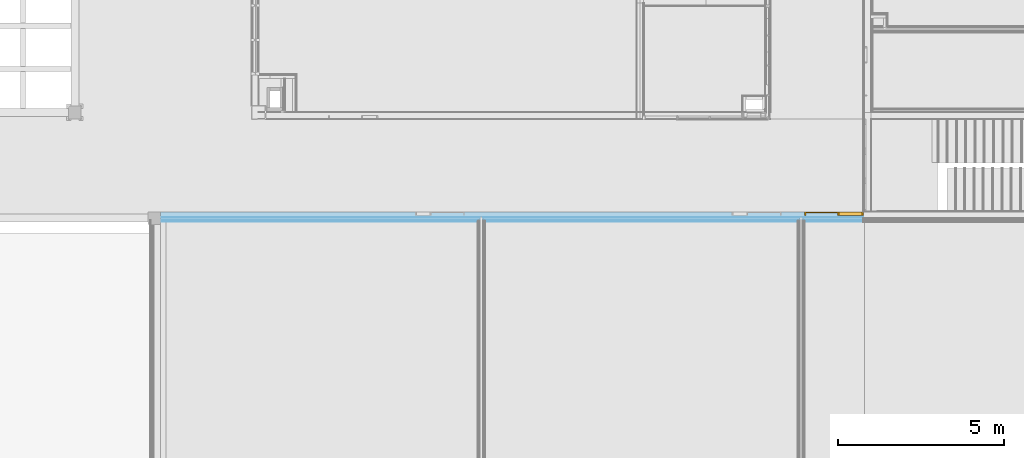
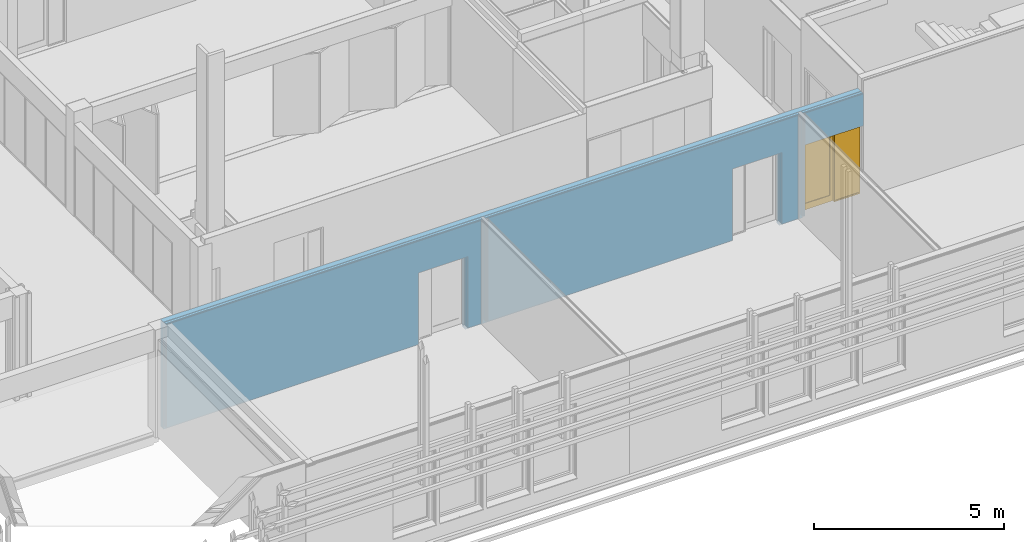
# One storey, part 63 of 139: 1 door, 3 openings, 1 element without a shape of its own, plus 7 elements that do not belong to this part.
"""IFC2X3 building model written with IfcOpenShell, lengths in millimetres."""

from ifc_helpers import new_model, entity, si_unit, converted_unit, derived_unit, money_unit, direction, frame, origin_with_axes, place, context, subcontext, project, spatial, open_shell, faceted_brep, surface_model, material, type_object, element, fill, aggregate, save


model = new_model("IFC2X3")

# Units and contexts
model_context = context("Model", 3, precision=0.01, world=origin_with_axes(), true_north=direction((0.0, 1.0)))
body_context = subcontext(model_context, "Body", "Model", "MODEL_VIEW")
ifc_project = project(units=[si_unit("LENGTHUNIT", "METRE", prefix="MILLI"), si_unit("AREAUNIT", "SQUARE_METRE"), si_unit("VOLUMEUNIT", "CUBIC_METRE"), converted_unit("PLANEANGLEUNIT", "DEGREE", entity("IfcPlaneAngleMeasure", 0.0174532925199), si_unit("PLANEANGLEUNIT", "RADIAN"), dimensions=[0, 0, 0, 0, 0, 0, 0]), money_unit("EUR"), converted_unit("TIMEUNIT", "Year", entity("IfcTimeMeasure", 31556926.0), si_unit("TIMEUNIT", "SECOND"), dimensions=[0, 0, 1, 0, 0, 0, 0]), si_unit("MASSUNIT", "GRAM", prefix="KILO"), si_unit("THERMODYNAMICTEMPERATUREUNIT", "DEGREE_CELSIUS"), si_unit("LUMINOUSINTENSITYUNIT", "LUMEN"), si_unit("ENERGYUNIT", "JOULE", prefix="MEGA"), derived_unit("THERMALCONDUCTANCEUNIT", [(si_unit("POWERUNIT", "WATT"), 1), (si_unit("LENGTHUNIT", "METRE"), -1), (si_unit("THERMODYNAMICTEMPERATUREUNIT", "KELVIN"), -1)]), derived_unit("SPECIFICHEATCAPACITYUNIT", [(si_unit("ENERGYUNIT", "JOULE"), 1), (si_unit("MASSUNIT", "GRAM", prefix="KILO"), -1), (si_unit("THERMODYNAMICTEMPERATUREUNIT", "KELVIN"), -1)]), derived_unit("MASSDENSITYUNIT", [(si_unit("MASSUNIT", "GRAM", prefix="KILO"), 1), (si_unit("VOLUMEUNIT", "CUBIC_METRE"), -1)])], contexts=[model_context])

# Site, building, storey
site_placement = place(None, origin_with_axes())
site = spatial("IfcSite", under=ifc_project, at=site_placement, Name="Kolde pst 67a", CompositionType="ELEMENT")
building_placement = place(site_placement, origin_with_axes())
building = spatial("IfcBuilding", under=site, at=building_placement, Name="Riigigümnaasium", CompositionType="ELEMENT")
storey_placement = place(building_placement, frame((0.0, 0.0, 4600.0), z_axis=(0.0, 0.0, 1.0), x_axis=(1.0, 0.0, 0.0)))
storey = spatial("IfcBuildingStorey", under=building, at=storey_placement, Name="2. korrus", CompositionType="ELEMENT", Elevation=4600.0)

# Door
door_style = type_object("IfcDoorStyle", Name="Door with Sidelight on Side 2 25", ConstructionType="NOTDEFINED", OperationType="SINGLE_SWING_LEFT", ParameterTakesPrecedence=False, Sizeable=False)
wall_placement = place(storey_placement, frame((55369.9826662, 7900.0, -130.0), z_axis=(0.0, 0.0, 1.0), x_axis=(1.0, 0.0, 0.0)))
opening_2_placement = place(wall_placement, frame((20330.020805, 0.0, 130.0), z_axis=(0.0, 0.0, 1.0), x_axis=(1.0, 0.0, 0.0)))
door_placement = place(opening_2_placement, frame((-890.0, 0.0, 0.0), z_axis=(0.0, 0.0, 1.0), x_axis=(1.0, 0.0, 0.0)))
door = element("IfcDoor", 1, at=door_placement, inside=storey, type_object=door_style, Name="Siseuks", ObjectType="DOOR", OverallHeight=2300.0, OverallWidth=1780.0, context=body_context, shape_type="SurfaceModel", body=[
    faceted_brep([(1780.0, 0.0, 0.0), (1780.0, -115.0, 0.0), (1740.0, -115.0, 0.0), (1740.0, 0.0, 0.0), (1780.0, 0.0, 2260.0), (1780.0, -115.0, 2260.0), (1740.0, -115.0, 2260.0), (1740.0, -115.0, 40.0), (1740.0, 0.0, 40.0), (1740.0, 0.0, 2260.0)], [[[0, 1, 2, 3]], [[4, 5, 1, 0]], [[1, 5, 6, 7, 2]], [[3, 2, 7, 8]], [[0, 3, 8, 9, 4]], [[9, 6, 5, 4]], [[8, 7, 6, 9]]]),
    faceted_brep([(1000.00030613, -40.0, 0.0), (1000.00030613, -115.0, 0.0), (1000.00030613, -115.0, 2260.0), (1000.00030613, -40.0, 2260.0), (1012.00030613, -40.0, 0.0), (1012.00030613, 0.0, 0.0), (1040.00030613, 0.0, 0.0), (1040.00030613, -115.0, 0.0), (1040.00030613, -115.0, 40.0), (1040.00030613, -115.0, 2260.0), (1012.00030613, -40.0, 2260.0), (1040.00030613, 0.0, 2260.0), (1012.00030613, 0.0, 2260.0), (1040.00030613, 0.0, 40.0)], [[[0, 1, 2, 3]], [[4, 5, 6, 7, 1, 0]], [[7, 8, 9, 2, 1]], [[10, 3, 2, 9, 11, 12]], [[10, 4, 0, 3]], [[12, 5, 4, 10]], [[12, 11, 13, 6, 5]], [[6, 13, 8, 7]], [[13, 11, 9, 8]]]),
    faceted_brep([(1740.0, 0.0, 40.0), (1740.0, -115.0, 40.0), (1740.0, -115.0, 0.0), (1740.0, 0.0, 0.0), (1040.00030613, 0.0, 40.0), (1040.00030613, -115.0, 40.0), (1040.00030613, -115.0, 0.0), (1040.00030613, 0.0, 0.0)], [[[0, 1, 2, 3]], [[4, 5, 1, 0]], [[1, 5, 6, 2]], [[3, 2, 6, 7]], [[0, 3, 7, 4]], [[7, 6, 5, 4]]]),
    faceted_brep([(28.0, -40.0, 2260.0), (28.0, 0.0, 2260.0), (0.0, 0.0, 2260.0), (0.0, -115.0, 2260.0), (40.0, -115.0, 2260.0), (40.0, -40.0, 2260.0), (28.0, -40.0, 0.0), (28.0, 0.0, 0.0), (0.0, 0.0, 0.0), (0.0, -115.0, 0.0), (40.0, -115.0, 0.0), (40.0, -40.0, 0.0)], [[[0, 1, 2, 3, 4, 5]], [[0, 6, 7, 1]], [[7, 8, 2, 1]], [[2, 8, 9, 3]], [[3, 9, 10, 4]], [[5, 4, 10, 11]], [[5, 11, 6, 0]], [[6, 11, 10, 9, 8, 7]]]),
    faceted_brep([(1012.00030613, 0.0, 2272.0), (28.0, 0.0, 2272.0), (28.0, 0.0, 2260.0), (0.0, 0.0, 2260.0), (0.0, 0.0, 2300.0), (1780.0, 0.0, 2300.0), (1780.0, 0.0, 2260.0), (1740.0, 0.0, 2260.0), (1040.00030613, 0.0, 2260.0), (1012.00030613, 0.0, 2260.0), (1012.00030613, -40.0, 2272.0), (28.0, -40.0, 2272.0), (28.0, -40.0, 2260.0), (40.0, -40.0, 2260.0), (40.0, -115.0, 2260.0), (0.0, -115.0, 2260.0), (0.0, -115.0, 2300.0), (1780.0, -115.0, 2300.0), (1780.0, -115.0, 2260.0), (1740.0, -115.0, 2260.0), (1040.00030613, -115.0, 2260.0), (1012.00030613, -40.0, 2260.0), (1000.00030613, -115.0, 2260.0)], [[[0, 1, 2, 3, 4, 5, 6, 7, 8, 9]], [[0, 10, 11, 1]], [[1, 11, 12, 2]], [[12, 13, 14, 15, 3, 2]], [[4, 3, 15, 16]], [[5, 4, 16, 17]], [[6, 5, 17, 18]], [[7, 6, 18, 19]], [[8, 7, 19, 20]], [[21, 9, 8, 20, 22, 14, 13]], [[9, 21, 10, 0]], [[12, 11, 10, 21, 13]], [[14, 22, 20, 19, 18, 17, 16, 15]]]),
    faceted_brep([(28.0, 0.0, 200.0), (128.0, 0.0, 200.0), (128.0, -40.0, 200.0), (28.0, -40.0, 200.0), (28.0, 0.0, 2172.0), (128.0, 0.0, 2172.0), (128.0, -40.0, 2172.0), (28.0, -40.0, 2172.0)], [[[0, 1, 2, 3]], [[0, 4, 5, 1]], [[1, 5, 6, 2]], [[3, 2, 6, 7]], [[4, 0, 3, 7]], [[5, 4, 7, 6]]]),
    faceted_brep([(1012.00030613, 0.0, 200.0), (1012.00030613, 0.0, 2172.0), (1012.00030613, -40.0, 2172.0), (1012.00030613, -40.0, 200.0), (912.000306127, 0.0, 200.0), (912.000306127, 0.0, 2172.0), (912.000306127, -40.0, 2172.0), (912.000306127, -40.0, 200.0)], [[[0, 1, 2, 3]], [[0, 4, 5, 1]], [[1, 5, 6, 2]], [[3, 2, 6, 7]], [[4, 0, 3, 7]], [[5, 4, 7, 6]]]),
    faceted_brep([(28.0, 0.0, 0.0), (1012.00030613, 0.0, 0.0), (1012.00030613, -40.0, 0.0), (28.0, -40.0, 0.0), (28.0, 0.0, 200.0), (128.0, 0.0, 200.0), (912.000306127, 0.0, 200.0), (1012.00030613, 0.0, 200.0), (1012.00030613, -40.0, 200.0), (912.000306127, -40.0, 200.0), (128.0, -40.0, 200.0), (28.0, -40.0, 200.0)], [[[0, 1, 2, 3]], [[0, 4, 5, 6, 7, 1]], [[1, 7, 8, 2]], [[3, 2, 8, 9, 10, 11]], [[4, 0, 3, 11]], [[5, 4, 11, 10]], [[6, 5, 10, 9]], [[7, 6, 9, 8]]]),
    faceted_brep([(28.0, 0.0, 2272.0), (28.0, 0.0, 2172.0), (28.0, -40.0, 2172.0), (28.0, -40.0, 2272.0), (1012.00030613, 0.0, 2272.0), (1012.00030613, 0.0, 2172.0), (912.000306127, 0.0, 2172.0), (128.0, 0.0, 2172.0), (128.0, -40.0, 2172.0), (912.000306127, -40.0, 2172.0), (1012.00030613, -40.0, 2172.0), (1012.00030613, -40.0, 2272.0)], [[[0, 1, 2, 3]], [[0, 4, 5, 6, 7, 1]], [[1, 7, 8, 2]], [[3, 2, 8, 9, 10, 11]], [[4, 0, 3, 11]], [[5, 4, 11, 10]], [[6, 5, 10, 9]], [[7, 6, 9, 8]]]),
    surface_model("IfcShellBasedSurfaceModel", [(128.0, -14.0, 200.0), (128.0, -14.0, 2172.0), (912.000306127, -14.0, 2172.0), (912.000306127, -14.0, 200.0)], [open_shell([[[0, 1, 2, 3]]])]),
    surface_model("IfcShellBasedSurfaceModel", [(128.0, -26.0, 200.0), (912.000306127, -26.0, 200.0), (912.000306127, -26.0, 2172.0), (128.0, -26.0, 2172.0)], [open_shell([[[0, 1, 2, 3]]])]),
    surface_model("IfcShellBasedSurfaceModel", [(1740.0, -91.0, 40.0), (1040.00030613, -91.0, 40.0), (1040.00030613, -91.0, 2260.0), (1740.0, -91.0, 2260.0)], [open_shell([[[0, 1, 2, 3]]])]),
    surface_model("IfcShellBasedSurfaceModel", [(1740.0, -103.0, 40.0), (1740.0, -103.0, 2260.0), (1040.00030613, -103.0, 2260.0), (1040.00030613, -103.0, 40.0)], [open_shell([[[0, 1, 2, 3]]])]),
])

# Wall, openings
wall_type = type_object("IfcWallType", Name="SS-CLT-16/1_vill75+krohv 52 dB 300", PredefinedType="NOTDEFINED")
wall = element("IfcWall", 2, at=wall_placement, inside=storey, type_object=wall_type, Name="Sisesein")
opening_1_placement = place(wall_placement, frame((8430.01666176, 0.0, 130.0), z_axis=(0.0, 0.0, 1.0), x_axis=(1.0, 0.0, 0.0)))
element("IfcOpeningElement", 3, at=opening_1_placement, cuts=wall, Name="Siseuks", context=body_context, shape_type="Brep", body=[
    faceted_brep([(750.0, -300.0, 2300.0), (750.0, -300.0, 0.0), (750.0, 600.0, 0.0), (750.0, 600.0, 2300.0), (-750.0, -300.0, 2300.0), (-750.0, -300.0, 0.0), (-750.0, 600.0, 0.0), (-750.0, 600.0, 2300.0)], [[[0, 1, 2, 3]], [[0, 4, 5, 1]], [[1, 5, 6, 2]], [[3, 2, 6, 7]], [[4, 0, 3, 7]], [[5, 4, 7, 6]]]),
])
opening_2 = element("IfcOpeningElement", 4, at=opening_2_placement, cuts=wall, Name="Siseuks", context=body_context, shape_type="Brep", body=[
    faceted_brep([(-890.0, 600.0, 2300.0), (-890.0, 600.0, 0.0), (-890.0, -300.0, 0.0), (-890.0, -300.0, 2300.0), (890.0, 600.0, 2300.0), (890.0, 600.0, 0.0), (890.0, -300.0, 0.0), (890.0, -300.0, 2300.0)], [[[0, 1, 2, 3]], [[0, 4, 5, 1]], [[1, 5, 6, 2]], [[3, 2, 6, 7]], [[4, 0, 3, 7]], [[5, 4, 7, 6]]]),
])

fill(opening_2, door)

# Opening
opening_3_placement = place(wall_placement, frame((17990.0166618, 0.0, 130.0), z_axis=(0.0, 0.0, 1.0), x_axis=(1.0, 0.0, 0.0)))
element("IfcOpeningElement", 5, at=opening_3_placement, cuts=wall, Name="Siseuks", context=body_context, shape_type="Brep", body=[
    faceted_brep([(750.0, -300.0, 2300.0), (750.0, -300.0, 0.0), (750.0, 600.0, 0.0), (750.0, 600.0, 2300.0), (-750.0, -300.0, 2300.0), (-750.0, -300.0, 0.0), (-750.0, 600.0, 0.0), (-750.0, 600.0, 2300.0)], [[[0, 1, 2, 3]], [[0, 4, 5, 1]], [[1, 5, 6, 2]], [[3, 2, 6, 7]], [[4, 0, 3, 7]], [[5, 4, 7, 6]]]),
])

# Building element part
ifc_material_1 = material(Name="_KANDETARIND - CLT ristkihtliimpuit vastavalt EK osale, CLT paigaldusvuugid teibitakse ROTHOBLAAS teibiga")
building_element_part_1_placement = place(wall_placement, origin_with_axes())
building_element_part_1 = element("IfcBuildingElementPart", 6, at=building_element_part_1_placement, material=ifc_material_1, Name="_KANDETARIND - CLT ristkihtliimpuit vastavalt EK osale, CLT paigaldusvuugid teibitakse ROTHOBLAAS teibiga", context=body_context, shape_type="Brep", body=[
    faceted_brep([(17240.0166618, 0.0, 2430.0), (17240.0166618, 0.0, 130.0), (17240.0166618, 0.0, 0.0), (9180.01666176, 0.0, 0.0), (9180.01666176, 0.0, 130.0), (9180.01666176, 0.0, 2430.0), (7680.01666176, 0.0, 2430.0), (7680.01666176, 0.0, 130.0), (7680.01666176, 0.0, 0.0), (0.0, 0.0, 0.0), (0.0, 0.0, 3450.0), (21220.0193969, 0.0, 3450.0), (21220.020805, 0.0, 2430.0), (19440.020805, 0.0, 2430.0), (19440.020805, 0.0, 130.0), (19440.020805, 0.0, 0.0), (18740.0166618, 0.0, 0.0), (18740.0166618, 0.0, 130.0), (18740.0166618, 0.0, 2430.0), (17240.0166618, -160.0, 2430.0), (17240.0166618, -160.0, 130.0), (17240.0166618, -160.0, 0.0), (9180.01666176, -160.0, 0.0), (9180.01666176, -160.0, 130.0), (9180.01666176, -160.0, 2430.0), (7680.01666176, -160.0, 2430.0), (7680.01666176, -160.0, 130.0), (7680.01666176, -160.0, 0.0), (0.0, -160.0, 0.0), (-0.00089815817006, -160.0, 3450.0), (21220.0193969, -160.0, 3450.0), (21220.020805, -160.0, 2430.0), (19440.020805, -160.0, 2430.0), (19440.020805, -160.0, 130.0), (19440.020805, -160.0, 0.0), (18740.0166618, -160.0, 0.0), (18740.0166618, -160.0, 130.0), (18740.0166618, -160.0, 2430.0)], [[[0, 1, 2, 3, 4, 5, 6, 7, 8, 9, 10, 11, 12, 13, 14, 15, 16, 17, 18]], [[1, 0, 19, 20]], [[1, 20, 21, 2]], [[22, 3, 2, 21]], [[3, 22, 23, 4]], [[23, 24, 5, 4]], [[24, 25, 6, 5]], [[25, 26, 7, 6]], [[27, 8, 7, 26]], [[27, 28, 9, 8]], [[9, 28, 29, 10]], [[10, 29, 30, 11]], [[12, 11, 30, 31]], [[12, 31, 32, 13]], [[13, 32, 33, 14]], [[33, 34, 15, 14]], [[16, 15, 34, 35]], [[36, 17, 16, 35]], [[18, 17, 36, 37]], [[0, 18, 37, 19]], [[37, 36, 35, 34, 33, 32, 31, 30, 29, 28, 27, 26, 25, 24, 23, 22, 21, 20, 19]]]),
])

ifc_material_2 = material(Name="_ÕHKVAHE")
building_element_part_2_placement = place(wall_placement, origin_with_axes())
building_element_part_2 = element("IfcBuildingElementPart", 7, at=building_element_part_2_placement, material=ifc_material_2, Name="_ÕHKVAHE", context=body_context, shape_type="Brep", body=[
    faceted_brep([(21220.020805, -175.0, 2430.0), (21220.020805, -160.0, 2430.0), (21220.0193969, -160.0, 3450.0), (21220.0193969, -175.0, 3450.0), (19440.020805, -160.0, 2430.0), (19440.020805, -175.0, 2430.0), (19440.020805, -160.0, 130.0), (19440.020805, -160.0, 127.0), (19390.0166618, -160.0, 127.0), (19390.0166618, -160.0, 3450.0), (19390.0166618, -175.0, 3450.0), (19390.0166618, -175.0, 127.0), (19440.020805, -175.0, 127.0), (19440.020805, -175.0, 130.0)], [[[0, 1, 2, 3]], [[4, 1, 0, 5]], [[4, 6, 7, 8, 9, 2, 1]], [[2, 9, 10, 3]], [[5, 0, 3, 10, 11, 12, 13]], [[6, 4, 5, 13]], [[6, 13, 12, 7]], [[12, 11, 8, 7]], [[9, 8, 11, 10]]]),
    faceted_brep([(17240.0166618, -160.0, 2430.0), (17240.0166618, -160.0, 130.0), (17240.0166618, -160.0, 127.0), (9740.01666176, -160.0, 127.0), (9740.01666176, -160.0, 3450.0), (19290.0166618, -160.0, 3450.0), (19290.0166618, -160.0, 127.0), (18740.0166618, -160.0, 127.0), (18740.0166618, -160.0, 130.0), (18740.0166618, -160.0, 2430.0), (17240.0166618, -175.0, 2430.0), (17240.0166618, -175.0, 130.0), (17240.0166618, -175.0, 127.0), (9740.01666176, -175.0, 127.0), (9740.01666176, -175.0, 3450.0), (19290.0166618, -175.0, 3450.0), (19290.0166618, -175.0, 127.0), (18740.0166618, -175.0, 127.0), (18740.0166618, -175.0, 130.0), (18740.0166618, -175.0, 2430.0)], [[[0, 1, 2, 3, 4, 5, 6, 7, 8, 9]], [[1, 0, 10, 11]], [[1, 11, 12, 2]], [[12, 13, 3, 2]], [[4, 3, 13, 14]], [[5, 4, 14, 15]], [[15, 16, 6, 5]], [[7, 6, 16, 17]], [[18, 8, 7, 17]], [[9, 8, 18, 19]], [[0, 9, 19, 10]], [[19, 18, 17, 16, 15, 14, 13, 12, 11, 10]]]),
    faceted_brep([(7680.01666176, -160.0, 2430.0), (7680.01666176, -160.0, 130.0), (7680.01666176, -160.0, 127.0), (0.0, -160.0, 127.0), (-0.00089815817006, -160.0, 3450.0), (9640.01666176, -160.0, 3450.0), (9640.01666176, -160.0, 127.0), (9180.01666176, -160.0, 127.0), (9180.01666176, -160.0, 130.0), (9180.01666176, -160.0, 2430.0), (7680.01666176, -175.0, 2430.0), (7680.01666176, -175.0, 130.0), (7680.01666176, -175.0, 127.0), (0.0, -175.0, 127.0), (-0.00089815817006, -175.0, 3450.0), (9640.01666176, -175.0, 3450.0), (9640.01666176, -175.0, 127.0), (9180.01666176, -175.0, 127.0), (9180.01666176, -175.0, 130.0), (9180.01666176, -175.0, 2430.0)], [[[0, 1, 2, 3, 4, 5, 6, 7, 8, 9]], [[1, 0, 10, 11]], [[1, 11, 12, 2]], [[12, 13, 3, 2]], [[4, 3, 13, 14]], [[5, 4, 14, 15]], [[15, 16, 6, 5]], [[7, 6, 16, 17]], [[18, 8, 7, 17]], [[9, 8, 18, 19]], [[0, 9, 19, 10]], [[19, 18, 17, 16, 15, 14, 13, 12, 11, 10]]]),
])

ifc_material_3 = material(Name="_KARKASS - metallkarkass CW 75/50/06 ja UW 75/40/06, samm 600, vahel mineraalvill, helineeldetegur αw = 1.0,  ISOVER ACOUSTIC 75mm või samaväärne")
building_element_part_3_placement = place(wall_placement, origin_with_axes())
building_element_part_3 = element("IfcBuildingElementPart", 8, at=building_element_part_3_placement, material=ifc_material_3, Name="_KARKASS - metallkarkass CW 75/50/06 ja UW 75/40/06, samm 600, vahel mineraalvill, helineeldetegur αw = 1.0,  ISOVER ACOUSTIC 75mm või samaväärne", context=body_context, shape_type="Brep", body=[
    faceted_brep([(21220.020805, -250.0, 2430.0), (21220.020805, -175.0, 2430.0), (21220.0193969, -175.0, 3450.0), (21220.0193969, -250.0, 3450.0), (19440.020805, -175.0, 2430.0), (19440.020805, -250.0, 2430.0), (19440.020805, -175.0, 130.0), (19440.020805, -175.0, 127.0), (19390.0166618, -175.0, 127.0), (19390.0166618, -175.0, 3450.0), (19390.0166618, -250.0, 3450.0), (19390.0166618, -250.0, 127.0), (19440.020805, -250.0, 127.0), (19440.020805, -250.0, 130.0)], [[[0, 1, 2, 3]], [[4, 1, 0, 5]], [[4, 6, 7, 8, 9, 2, 1]], [[2, 9, 10, 3]], [[5, 0, 3, 10, 11, 12, 13]], [[6, 4, 5, 13]], [[6, 13, 12, 7]], [[12, 11, 8, 7]], [[9, 8, 11, 10]]]),
    faceted_brep([(17240.0166618, -175.0, 2430.0), (17240.0166618, -175.0, 130.0), (17240.0166618, -175.0, 127.0), (9740.01666176, -175.0, 127.0), (9740.01666176, -175.0, 3450.0), (19290.0166618, -175.0, 3450.0), (19290.0166618, -175.0, 127.0), (18740.0166618, -175.0, 127.0), (18740.0166618, -175.0, 130.0), (18740.0166618, -175.0, 2430.0), (17240.0166618, -250.0, 2430.0), (17240.0166618, -250.0, 130.0), (17240.0166618, -250.0, 127.0), (9740.01666176, -250.0, 127.0), (9740.01666176, -250.0, 3450.0), (19290.0166618, -250.0, 3450.0), (19290.0166618, -250.0, 127.0), (18740.0166618, -250.0, 127.0), (18740.0166618, -250.0, 130.0), (18740.0166618, -250.0, 2430.0)], [[[0, 1, 2, 3, 4, 5, 6, 7, 8, 9]], [[1, 0, 10, 11]], [[1, 11, 12, 2]], [[12, 13, 3, 2]], [[4, 3, 13, 14]], [[5, 4, 14, 15]], [[15, 16, 6, 5]], [[7, 6, 16, 17]], [[18, 8, 7, 17]], [[9, 8, 18, 19]], [[0, 9, 19, 10]], [[19, 18, 17, 16, 15, 14, 13, 12, 11, 10]]]),
    faceted_brep([(7680.01666176, -175.0, 2430.0), (7680.01666176, -175.0, 130.0), (7680.01666176, -175.0, 127.0), (0.0, -175.0, 127.0), (-0.00089815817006, -175.0, 3450.0), (9640.01666176, -175.0, 3450.0), (9640.01666176, -175.0, 127.0), (9180.01666176, -175.0, 127.0), (9180.01666176, -175.0, 130.0), (9180.01666176, -175.0, 2430.0), (7680.01666176, -250.0, 2430.0), (7680.01666176, -250.0, 130.0), (7680.01666176, -250.0, 127.0), (0.0, -250.0, 127.0), (-0.00089815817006, -250.0, 3450.0), (9640.01666176, -250.0, 3450.0), (9640.01666176, -250.0, 127.0), (9180.01666176, -250.0, 127.0), (9180.01666176, -250.0, 130.0), (9180.01666176, -250.0, 2430.0)], [[[0, 1, 2, 3, 4, 5, 6, 7, 8, 9]], [[1, 0, 10, 11]], [[1, 11, 12, 2]], [[12, 13, 3, 2]], [[4, 3, 13, 14]], [[5, 4, 14, 15]], [[15, 16, 6, 5]], [[7, 6, 16, 17]], [[18, 8, 7, 17]], [[9, 8, 18, 19]], [[0, 9, 19, 10]], [[19, 18, 17, 16, 15, 14, 13, 12, 11, 10]]]),
])

ifc_material_4 = material(Name="_PLAATMATERJAL - OSB3 plaat")
building_element_part_4_placement = place(wall_placement, origin_with_axes())
building_element_part_4 = element("IfcBuildingElementPart", 9, at=building_element_part_4_placement, material=ifc_material_4, Name="_PLAATMATERJAL - OSB3 plaat", context=body_context, shape_type="Brep", body=[
    faceted_brep([(21220.020805, -260.0, 2430.0), (21220.020805, -250.0, 2430.0), (21220.0193969, -250.0, 3450.0), (21220.0193969, -260.0, 3450.0), (19440.020805, -250.0, 2430.0), (19440.020805, -260.0, 2430.0), (19440.020805, -250.0, 130.0), (19440.020805, -250.0, 127.0), (19390.0166618, -250.0, 127.0), (19390.0166618, -250.0, 3450.0), (19390.0166618, -260.0, 3450.0), (19390.0166618, -260.0, 127.0), (19440.020805, -260.0, 127.0), (19440.020805, -260.0, 130.0)], [[[0, 1, 2, 3]], [[4, 1, 0, 5]], [[4, 6, 7, 8, 9, 2, 1]], [[2, 9, 10, 3]], [[5, 0, 3, 10, 11, 12, 13]], [[6, 4, 5, 13]], [[6, 13, 12, 7]], [[12, 11, 8, 7]], [[9, 8, 11, 10]]]),
    faceted_brep([(17240.0166618, -250.0, 2430.0), (17240.0166618, -250.0, 130.0), (17240.0166618, -250.0, 127.0), (9740.01666176, -250.0, 127.0), (9740.01666176, -250.0, 3450.0), (19290.0166618, -250.0, 3450.0), (19290.0166618, -250.0, 127.0), (18740.0166618, -250.0, 127.0), (18740.0166618, -250.0, 130.0), (18740.0166618, -250.0, 2430.0), (17240.0166618, -260.0, 2430.0), (17240.0166618, -260.0, 130.0), (17240.0166618, -260.0, 127.0), (9740.01666176, -260.0, 127.0), (9740.01666176, -260.0, 3450.0), (19290.0166618, -260.0, 3450.0), (19290.0166618, -260.0, 127.0), (18740.0166618, -260.0, 127.0), (18740.0166618, -260.0, 130.0), (18740.0166618, -260.0, 2430.0)], [[[0, 1, 2, 3, 4, 5, 6, 7, 8, 9]], [[1, 0, 10, 11]], [[1, 11, 12, 2]], [[12, 13, 3, 2]], [[4, 3, 13, 14]], [[5, 4, 14, 15]], [[15, 16, 6, 5]], [[7, 6, 16, 17]], [[18, 8, 7, 17]], [[9, 8, 18, 19]], [[0, 9, 19, 10]], [[19, 18, 17, 16, 15, 14, 13, 12, 11, 10]]]),
    faceted_brep([(7680.01666176, -250.0, 2430.0), (7680.01666176, -250.0, 130.0), (7680.01666176, -250.0, 127.0), (0.0, -250.0, 127.0), (-0.00089815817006, -250.0, 3450.0), (9640.01666176, -250.0, 3450.0), (9640.01666176, -250.0, 127.0), (9180.01666176, -250.0, 127.0), (9180.01666176, -250.0, 130.0), (9180.01666176, -250.0, 2430.0), (7680.01666176, -260.0, 2430.0), (7680.01666176, -260.0, 130.0), (7680.01666176, -260.0, 127.0), (0.0, -260.0, 127.0), (-0.00089815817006, -260.0, 3450.0), (9640.01666176, -260.0, 3450.0), (9640.01666176, -260.0, 127.0), (9180.01666176, -260.0, 127.0), (9180.01666176, -260.0, 130.0), (9180.01666176, -260.0, 2430.0)], [[[0, 1, 2, 3, 4, 5, 6, 7, 8, 9]], [[1, 0, 10, 11]], [[1, 11, 12, 2]], [[12, 13, 3, 2]], [[4, 3, 13, 14]], [[5, 4, 14, 15]], [[15, 16, 6, 5]], [[7, 6, 16, 17]], [[18, 8, 7, 17]], [[9, 8, 18, 19]], [[0, 9, 19, 10]], [[19, 18, 17, 16, 15, 14, 13, 12, 11, 10]]]),
])

ifc_material_5 = material(Name="_PLAATMATERJAL - tuletõkkekipsplaat, Knauf Red GKF või samaväärne")
building_element_part_5_placement = place(wall_placement, origin_with_axes())
building_element_part_5 = element("IfcBuildingElementPart", 10, at=building_element_part_5_placement, material=ifc_material_5, Name="_PLAATMATERJAL - tuletõkkekipsplaat, Knauf Red GKF või samaväärne", context=body_context, shape_type="Brep", body=[
    faceted_brep([(21220.020805, -275.0, 2430.0), (21220.020805, -260.0, 2430.0), (21220.0193969, -260.0, 3450.0), (21220.0193969, -275.0, 3450.0), (19440.020805, -260.0, 2430.0), (19440.020805, -275.0, 2430.0), (19440.020805, -260.0, 130.0), (19440.020805, -260.0, 127.0), (19390.0166618, -260.0, 127.0), (19390.0166618, -260.0, 3450.0), (19390.0166618, -275.0, 3450.0), (19390.0166618, -275.0, 127.0), (19440.020805, -275.0, 127.0), (19440.020805, -275.0, 130.0)], [[[0, 1, 2, 3]], [[4, 1, 0, 5]], [[4, 6, 7, 8, 9, 2, 1]], [[2, 9, 10, 3]], [[5, 0, 3, 10, 11, 12, 13]], [[6, 4, 5, 13]], [[6, 13, 12, 7]], [[12, 11, 8, 7]], [[9, 8, 11, 10]]]),
    faceted_brep([(17240.0166618, -260.0, 2430.0), (17240.0166618, -260.0, 130.0), (17240.0166618, -260.0, 127.0), (9740.01666176, -260.0, 127.0), (9740.01666176, -260.0, 3450.0), (19290.0166618, -260.0, 3450.0), (19290.0166618, -260.0, 127.0), (18740.0166618, -260.0, 127.0), (18740.0166618, -260.0, 130.0), (18740.0166618, -260.0, 2430.0), (17240.0166618, -275.0, 2430.0), (17240.0166618, -275.0, 130.0), (17240.0166618, -275.0, 127.0), (9740.01666176, -275.0, 127.0), (9740.01666176, -275.0, 3450.0), (19290.0166618, -275.0, 3450.0), (19290.0166618, -275.0, 127.0), (18740.0166618, -275.0, 127.0), (18740.0166618, -275.0, 130.0), (18740.0166618, -275.0, 2430.0)], [[[0, 1, 2, 3, 4, 5, 6, 7, 8, 9]], [[1, 0, 10, 11]], [[1, 11, 12, 2]], [[12, 13, 3, 2]], [[4, 3, 13, 14]], [[5, 4, 14, 15]], [[15, 16, 6, 5]], [[7, 6, 16, 17]], [[18, 8, 7, 17]], [[9, 8, 18, 19]], [[0, 9, 19, 10]], [[19, 18, 17, 16, 15, 14, 13, 12, 11, 10]]]),
    faceted_brep([(7680.01666176, -260.0, 2430.0), (7680.01666176, -260.0, 130.0), (7680.01666176, -260.0, 127.0), (0.0, -260.0, 127.0), (-0.00089815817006, -260.0, 3450.0), (9640.01666176, -260.0, 3450.0), (9640.01666176, -260.0, 127.0), (9180.01666176, -260.0, 127.0), (9180.01666176, -260.0, 130.0), (9180.01666176, -260.0, 2430.0), (7680.01666176, -275.0, 2430.0), (7680.01666176, -275.0, 130.0), (7680.01666176, -275.0, 127.0), (0.0, -275.0, 127.0), (-0.00089815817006, -275.0, 3450.0), (9640.01666176, -275.0, 3450.0), (9640.01666176, -275.0, 127.0), (9180.01666176, -275.0, 127.0), (9180.01666176, -275.0, 130.0), (9180.01666176, -275.0, 2430.0)], [[[0, 1, 2, 3, 4, 5, 6, 7, 8, 9]], [[1, 0, 10, 11]], [[1, 11, 12, 2]], [[12, 13, 3, 2]], [[4, 3, 13, 14]], [[5, 4, 14, 15]], [[15, 16, 6, 5]], [[7, 6, 16, 17]], [[18, 8, 7, 17]], [[9, 8, 18, 19]], [[0, 9, 19, 10]], [[19, 18, 17, 16, 15, 14, 13, 12, 11, 10]]]),
])

building_element_part_6_placement = place(wall_placement, origin_with_axes())
building_element_part_6 = element("IfcBuildingElementPart", 11, at=building_element_part_6_placement, material=ifc_material_5, Name="_PLAATMATERJAL - tuletõkkekipsplaat, Knauf Red GKF või samaväärne", context=body_context, shape_type="Brep", body=[
    faceted_brep([(21220.020805, -290.0, 2430.0), (21220.020805, -275.0, 2430.0), (21220.0193969, -275.0, 3450.0), (21220.0193969, -290.0, 3450.0), (19440.020805, -275.0, 2430.0), (19440.020805, -290.0, 2430.0), (19440.020805, -275.0, 130.0), (19440.020805, -275.0, 127.0), (19430.0166618, -275.0, 127.0), (19430.0166618, -275.0, 3450.0), (19430.0166618, -290.0, 3450.0), (19430.0166618, -290.0, 127.0), (19440.020805, -290.0, 127.0), (19440.020805, -290.0, 130.0)], [[[0, 1, 2, 3]], [[4, 1, 0, 5]], [[4, 6, 7, 8, 9, 2, 1]], [[2, 9, 10, 3]], [[5, 0, 3, 10, 11, 12, 13]], [[6, 4, 5, 13]], [[6, 13, 12, 7]], [[12, 11, 8, 7]], [[9, 8, 11, 10]]]),
    faceted_brep([(17240.0166618, -275.0, 2430.0), (17240.0166618, -275.0, 130.0), (17240.0166618, -275.0, 127.0), (9780.01666176, -275.0, 127.0), (9780.01666176, -275.0, 3450.0), (19250.0166618, -275.0, 3450.0), (19250.0166618, -275.0, 127.0), (18740.0166618, -275.0, 127.0), (18740.0166618, -275.0, 130.0), (18740.0166618, -275.0, 2430.0), (17240.0166618, -290.0, 2430.0), (17240.0166618, -290.0, 130.0), (17240.0166618, -290.0, 127.0), (9780.01666176, -290.0, 127.0), (9780.01666176, -290.0, 3450.0), (19250.0166618, -290.0, 3450.0), (19250.0166618, -290.0, 127.0), (18740.0166618, -290.0, 127.0), (18740.0166618, -290.0, 130.0), (18740.0166618, -290.0, 2430.0)], [[[0, 1, 2, 3, 4, 5, 6, 7, 8, 9]], [[1, 0, 10, 11]], [[1, 11, 12, 2]], [[12, 13, 3, 2]], [[4, 3, 13, 14]], [[5, 4, 14, 15]], [[15, 16, 6, 5]], [[7, 6, 16, 17]], [[18, 8, 7, 17]], [[9, 8, 18, 19]], [[0, 9, 19, 10]], [[19, 18, 17, 16, 15, 14, 13, 12, 11, 10]]]),
    faceted_brep([(7680.01666176, -275.0, 2430.0), (7680.01666176, -275.0, 130.0), (7680.01666176, -275.0, 127.0), (0.0, -275.0, 127.0), (-0.00089815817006, -275.0, 3450.0), (9600.01666176, -275.0, 3450.0), (9600.01666176, -275.0, 127.0), (9180.01666176, -275.0, 127.0), (9180.01666176, -275.0, 130.0), (9180.01666176, -275.0, 2430.0), (7680.01666176, -290.0, 2430.0), (7680.01666176, -290.0, 130.0), (7680.01666176, -290.000000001, 127.0), (-0.00133188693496, -290.000000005, 127.0), (-0.00089815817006, -290.0, 3450.0), (9600.01666176, -290.0, 3450.0), (9600.01666176, -290.0, 127.0), (9180.01666176, -290.0, 127.0), (9180.01666176, -290.0, 130.0), (9180.01666176, -290.0, 2430.0)], [[[0, 1, 2, 3, 4, 5, 6, 7, 8, 9]], [[1, 0, 10, 11]], [[1, 11, 12, 2]], [[13, 3, 2, 12]], [[4, 3, 13, 14]], [[5, 4, 14, 15]], [[15, 16, 6, 5]], [[7, 6, 16, 17]], [[18, 8, 7, 17]], [[9, 8, 18, 19]], [[0, 9, 19, 10]], [[19, 18, 17, 16, 15, 14, 13, 12, 11, 10]]]),
])

ifc_material_6 = material(Name="_VIIMISTLUSKIHT - viimistlus vastavalt SA osale")
building_element_part_7_placement = place(wall_placement, origin_with_axes())
building_element_part_7 = element("IfcBuildingElementPart", 12, at=building_element_part_7_placement, material=ifc_material_6, Name="_VIIMISTLUSKIHT - viimistlus vastavalt SA osale", context=body_context, shape_type="Brep", body=[
    faceted_brep([(21220.020805, -300.0, 2430.0), (21220.020805, -290.0, 2430.0), (21220.0193969, -290.0, 3450.0), (21220.0193969, -300.0, 3450.0), (19445.0166618, -290.0, 2430.0), (19445.0166618, -300.0, 2430.0), (19445.0166618, -290.0, 3450.0), (19445.0166618, -300.0, 3450.0)], [[[0, 1, 2, 3]], [[4, 1, 0, 5]], [[1, 4, 6, 2]], [[2, 6, 7, 3]], [[5, 0, 3, 7]], [[4, 5, 7, 6]]]),
    faceted_brep([(17240.0166618, -290.0, 2430.0), (17240.0166618, -290.0, 130.0), (9795.01666176, -290.0, 130.0), (9795.01666176, -290.0, 3450.0), (19235.0166618, -290.0, 3450.0), (19235.0166618, -290.0, 130.0), (18740.0166618, -290.0, 130.0), (18740.0166618, -290.0, 2430.0), (17240.0166618, -300.0, 2430.0), (17240.0166618, -300.0, 130.0), (9795.01666176, -300.0, 130.0), (9795.01666176, -300.0, 3450.0), (19235.0166618, -300.0, 3450.0), (19235.0166618, -300.0, 130.0), (18740.0166618, -300.0, 130.0), (18740.0166618, -300.0, 2430.0)], [[[0, 1, 2, 3, 4, 5, 6, 7]], [[1, 0, 8, 9]], [[1, 9, 10, 2]], [[3, 2, 10, 11]], [[4, 3, 11, 12]], [[12, 13, 5, 4]], [[14, 6, 5, 13]], [[7, 6, 14, 15]], [[0, 7, 15, 8]], [[15, 14, 13, 12, 11, 10, 9, 8]]]),
    faceted_brep([(7680.01666176, -290.0, 2430.0), (7680.01666176, -290.000000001, 130.0), (-0.00133188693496, -290.000000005, 130.0), (-0.00089815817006, -290.0, 3450.0), (9585.01666176, -290.0, 3450.0), (9585.01666176, -290.0, 130.0), (9180.01666176, -290.0, 130.0), (9180.01666176, -290.0, 2430.0), (7680.01666176, -300.0, 2430.0), (7680.01666176, -300.000000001, 130.0), (-0.00129245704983, -300.000000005, 130.0), (-0.00089815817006, -300.0, 3450.0), (9585.01666176, -300.0, 3450.0), (9585.01666176, -300.0, 130.0), (9180.01666176, -300.0, 130.0), (9180.01666176, -300.0, 2430.0)], [[[0, 1, 2, 3, 4, 5, 6, 7]], [[1, 0, 8, 9]], [[1, 9, 10, 2]], [[3, 2, 10, 11]], [[4, 3, 11, 12]], [[12, 13, 5, 4]], [[14, 6, 5, 13]], [[7, 6, 14, 15]], [[0, 7, 15, 8]], [[15, 14, 13, 12, 11, 10, 9, 8]]]),
])

aggregate(wall, [building_element_part_1, building_element_part_2, building_element_part_3, building_element_part_4, building_element_part_5, building_element_part_6, building_element_part_7])

save(model, "model.ifc")
